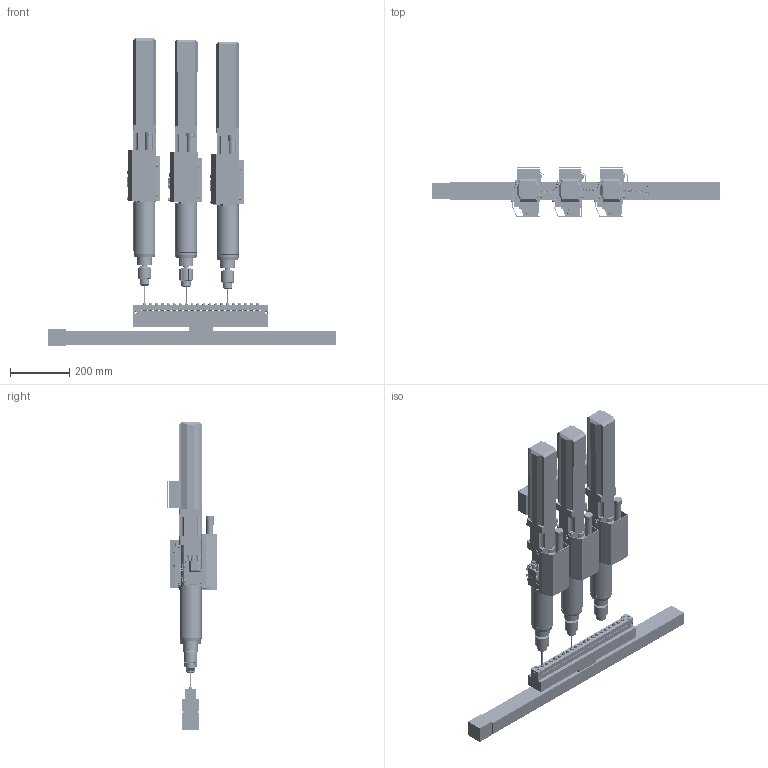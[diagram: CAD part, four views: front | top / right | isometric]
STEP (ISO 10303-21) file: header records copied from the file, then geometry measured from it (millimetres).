
FILE_DESCRIPTION(('Open CASCADE Model'),'2;1');
FILE_NAME('Open CASCADE Shape Model','2026-07-29T09:20:56',('Author'),( 'Open CASCADE'),'Open CASCADE STEP processor 7.8','Open CASCADE 7.8' ,'Unknown');
FILE_SCHEMA(('AUTOMOTIVE_DESIGN { 1 0 10303 214 1 1 1 1 }'));
Length unit declared in the file: millimetre
Products named in the file (32): STATION-1; A_bolt_00; A_bolt_01; A_bolt_02; A_bolt_03; A_bolt_04; A_bolt_05; A_bolt_06; A_bolt_07; A_bolt_08; A_rail_09; A_bolt_10; A_bolt_11; A_bolt_12; A_bolt_13; A_bolt_14; A_bolt_15; A_bolt_16; A_bolt_17; A_bolt_18; A_bolt_19; A_bolt_20; A_pin_21; A_rail_22; A1_chamfer_head; A1_tool; A2_drill50_head; A2_tool; A3_drill100_head; A3_tool; A_carrier_beam; A_slide_module
Assembly tree (31 placements, depth 2):
  STATION-1
    A_bolt_00
    A_bolt_01
    A_bolt_02
    A_bolt_03
    A_bolt_04
    A_bolt_05
    A_bolt_06
    A_bolt_07
    A_bolt_08
    A_rail_09
    A_bolt_10
    A_bolt_11
    A_bolt_12
    A_bolt_13
    A_bolt_14
    A_bolt_15
    A_bolt_16
    A_bolt_17
    A_bolt_18
    A_bolt_19
    A_bolt_20
    A_pin_21
    A_rail_22
    A1_chamfer_head
    A1_tool
    A2_drill50_head
    A2_tool
    A3_drill100_head
    A3_tool
    A_carrier_beam
    A_slide_module
Bounding box: 970 x 169 x 1036 mm (x, y, z)
Volume: 4493200 mm3; surface area: 2057106.9 mm2
Topology: 31 solids, 220 shells, 4592 faces, 17189 edges, 12849 vertices
Faces by surface type: plane 2472, cylinder 1449, cone 578, bspline 64, torus 20, revolution 9
Full cylindrical faces by diameter (mm): 3 x42, 3.5 x2, 5 x8, 6 x21, 6.5 x2, 6.8 x4, 8 x30, 8.75 x20, 10 x60, 12 x20, 14 x2, 17 x20
Entity records: 453406 total; most frequent: CARTESIAN_POINT 166265, DIRECTION 51630, LINE 29751, VECTOR 29751, ORIENTED_EDGE 27358, PCURVE 27358, DEFINITIONAL_REPRESENTATION 27358, EDGE_CURVE 17168
